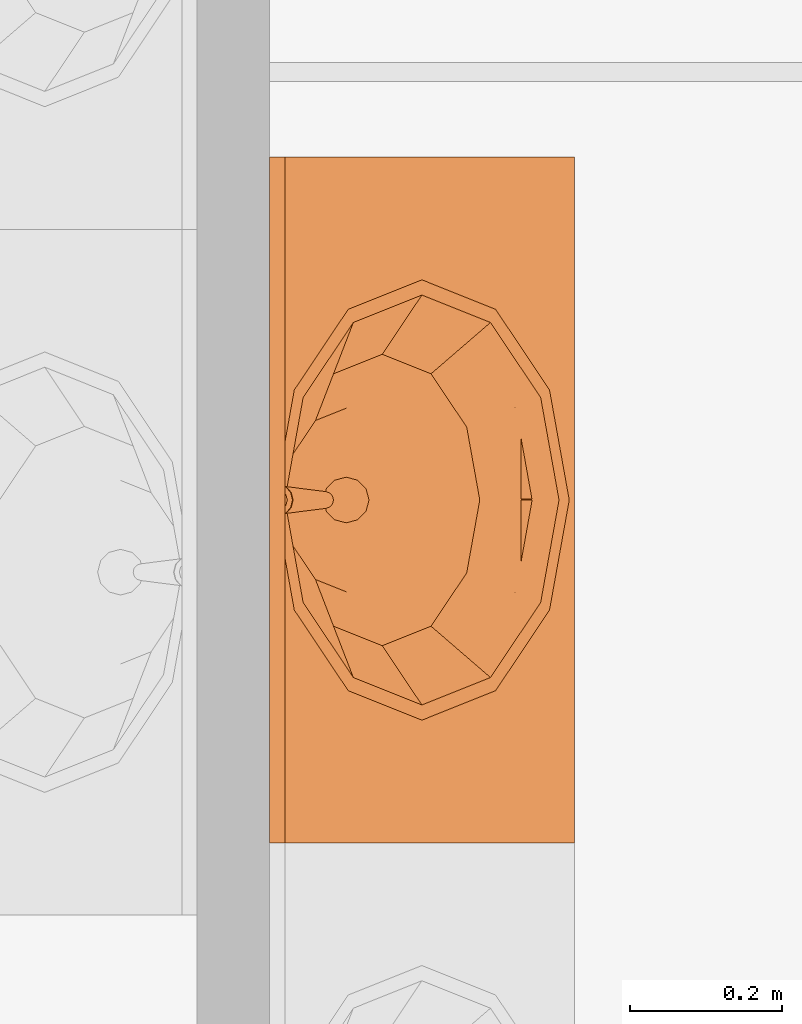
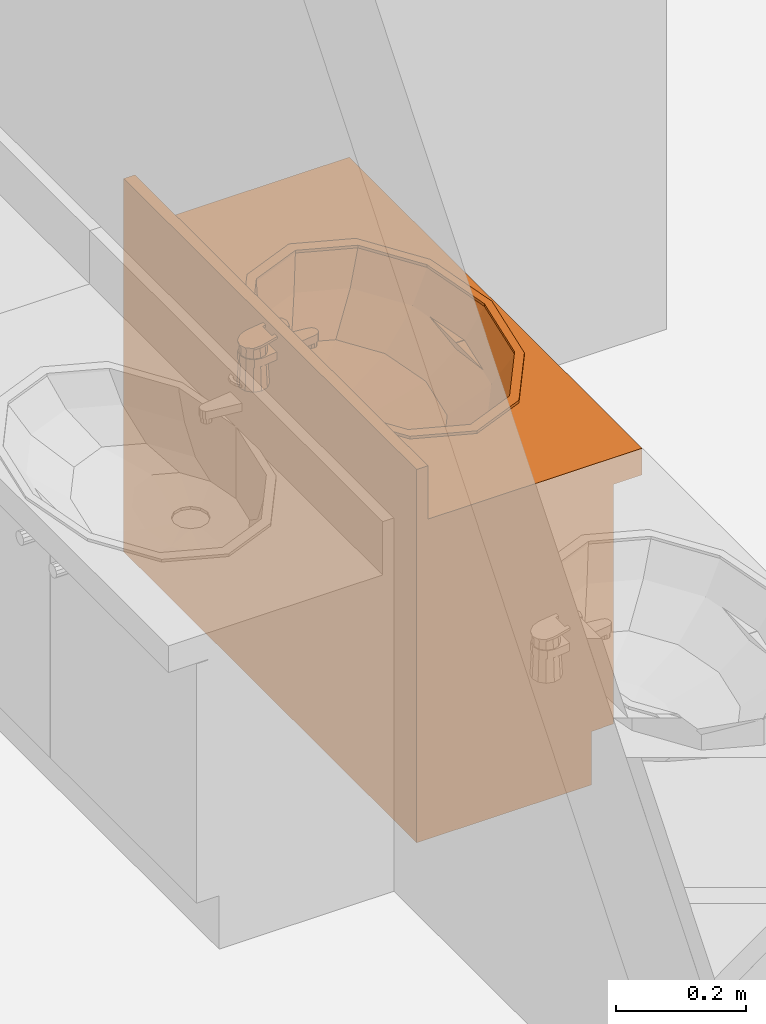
# One storey, part 13 of 14: 1 proxy.
"""IFC2X3 building model written with IfcOpenShell, lengths in millimetres."""

from ifc_helpers import new_model, entity, si_unit, converted_unit, direction, frame, origin_with_axes, place, context, project, spatial, open_shell, faceted_brep, surface_model, material, element, save


model = new_model("IFC2X3")

# Units and contexts
model_context = context("Model", 3, precision=1e-05, world=origin_with_axes(), true_north=direction((0.0, 1.0)))
ifc_project = project(units=[si_unit("LENGTHUNIT", "METRE", prefix="MILLI"), si_unit("AREAUNIT", "SQUARE_METRE"), si_unit("VOLUMEUNIT", "CUBIC_METRE"), converted_unit("PLANEANGLEUNIT", "DEGREE", entity("IfcPlaneAngleMeasure", 0.017453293), si_unit("PLANEANGLEUNIT", "RADIAN"), dimensions=[0, 0, 0, 0, 0, 0, 0]), si_unit("SOLIDANGLEUNIT", "STERADIAN"), si_unit("MASSUNIT", "GRAM"), si_unit("TIMEUNIT", "SECOND"), si_unit("THERMODYNAMICTEMPERATUREUNIT", "DEGREE_CELSIUS"), si_unit("LUMINOUSINTENSITYUNIT", "LUMEN")], contexts=[model_context])

# Site, building, storey
site_placement = place(None, origin_with_axes())
site = spatial("IfcSite", under=ifc_project, at=site_placement, Name="\x83T\x83C\x83g", CompositionType="ELEMENT")
building_placement = place(site_placement, origin_with_axes())
building = spatial("IfcBuilding", under=site, at=building_placement, Name="Daitec-Sample 201208", CompositionType="ELEMENT")
storey_placement = place(building_placement, frame((0.0, 0.0, 8000.0), z_axis=(0.0, 0.0, 1.0), x_axis=(1.0, 0.0, 0.0)))
storey = spatial("IfcBuildingStorey", under=building, at=storey_placement, Name="3F", CompositionType="ELEMENT", Elevation=8000.0)

# Proxy
ifc_material = material(Name="\x94w\x8ci")
proxy_placement = place(storey_placement, frame((21445.071, 22295.126, 0.0), z_axis=(0.0, 0.0, 1.0), x_axis=(0.0, 1.0, 0.0)))
element("IfcBuildingElementProxy", 1, at=proxy_placement, inside=storey, material=ifc_material, Name="O2", context=model_context, shape_type="Brep", body=[
    faceted_brep([(0.0, 90.0, 0.0), (0.0, 90.0, 100.0), (-900.0, 90.0, 100.0), (-900.0, 90.0, 0.0), (0.0, 400.0, 0.0), (0.0, 400.0, 100.0), (-900.0, 400.0, 100.0), (-900.0, 400.0, 0.0)], [[[0, 1, 2, 3]], [[4, 5, 1, 0]], [[1, 5, 6, 2]], [[3, 2, 6, 7]], [[0, 3, 7, 4]], [[7, 6, 5, 4]]]),
    faceted_brep([(0.0, 70.0, 100.0), (0.0, 70.0, 120.0), (-20.0, 70.0, 120.0), (-20.0, 70.0, 100.0), (0.0, 400.0, 100.0), (0.0, 400.0, 120.0), (-20.0, 400.0, 120.0), (-880.0, 400.0, 120.0), (-900.0, 400.0, 120.0), (-900.0, 70.0, 120.0), (-880.0, 70.0, 120.0), (-880.0, 70.0, 100.0), (-900.0, 70.0, 100.0), (-900.0, 400.0, 100.0), (-880.0, 400.0, 100.0), (-20.0, 400.0, 100.0)], [[[0, 1, 2, 3]], [[4, 5, 1, 0]], [[1, 5, 6, 7, 8, 9, 10, 2]], [[3, 2, 10, 11]], [[0, 3, 11, 12, 13, 14, 15, 4]], [[15, 6, 5, 4]], [[14, 7, 6, 15]], [[13, 8, 7, 14]], [[12, 9, 8, 13]], [[11, 10, 9, 12]]]),
    faceted_brep([(0.0, 70.0, 120.0), (0.0, 70.0, 550.0), (-20.0, 70.0, 550.0), (-20.0, 70.0, 120.0), (0.0, 400.0, 120.0), (0.0, 400.0, 550.0), (-900.0, 400.0, 550.0), (-900.0, 70.0, 550.0), (-880.0, 70.0, 550.0), (-880.0, 380.0, 550.0), (-20.0, 380.0, 550.0), (-20.0, 380.0, 120.0), (-880.0, 380.0, 120.0), (-880.0, 70.0, 120.0), (-900.0, 70.0, 120.0), (-900.0, 400.0, 120.0)], [[[0, 1, 2, 3]], [[4, 5, 1, 0]], [[1, 5, 6, 7, 8, 9, 10, 2]], [[3, 2, 10, 11]], [[0, 3, 11, 12, 13, 14, 15, 4]], [[15, 6, 5, 4]], [[14, 7, 6, 15]], [[13, 8, 7, 14]], [[12, 9, 8, 13]], [[11, 10, 9, 12]]]),
    faceted_brep([(-880.0, 70.0, 223.33333), (-880.0, 70.0, 243.33333), (-880.0, 380.0, 243.33333), (-880.0, 380.0, 223.33333), (-20.0, 70.0, 223.33333), (-20.0, 70.0, 243.33333), (-20.0, 380.0, 243.33333), (-20.0, 380.0, 223.33333)], [[[0, 1, 2, 3]], [[4, 5, 1, 0]], [[1, 5, 6, 2]], [[3, 2, 6, 7]], [[0, 3, 7, 4]], [[7, 6, 5, 4]]]),
    faceted_brep([(-880.0, 70.0, 366.66667), (-880.0, 70.0, 386.66667), (-880.0, 380.0, 386.66667), (-880.0, 380.0, 366.66667), (-20.0, 70.0, 366.66667), (-20.0, 70.0, 386.66667), (-20.0, 380.0, 386.66667), (-20.0, 380.0, 366.66667)], [[[0, 1, 2, 3]], [[4, 5, 1, 0]], [[1, 5, 6, 2]], [[3, 2, 6, 7]], [[0, 3, 7, 4]], [[7, 6, 5, 4]]]),
    faceted_brep([(0.0, 400.0, 550.0), (0.0, 0.0, 550.0), (-900.0, 0.0, 550.0), (-900.0, 400.0, 550.0), (-683.82686, 110.0, 550.0), (-585.0, 44.115427, 550.0), (-450.0, 20.0, 550.0), (-315.0, 44.115427, 550.0), (-216.17314, 110.0, 550.0), (-180.0, 200.0, 550.0), (-216.17314, 290.0, 550.0), (-315.0, 355.88457, 550.0), (-450.0, 380.0, 550.0), (-585.0, 355.88457, 550.0), (-683.82686, 290.0, 550.0), (-720.0, 200.0, 550.0), (0.0, 400.0, 600.0), (0.0, 0.0, 600.0), (-900.0, 0.0, 600.0), (-900.0, 400.0, 600.0), (-683.82686, 110.0, 600.0), (-585.0, 44.115427, 600.0), (-450.0, 20.0, 600.0), (-315.0, 44.115427, 600.0), (-216.17314, 110.0, 600.0), (-180.0, 200.0, 600.0), (-216.17314, 290.0, 600.0), (-315.0, 355.88457, 600.0), (-450.0, 380.0, 600.0), (-585.0, 355.88457, 600.0), (-683.82686, 290.0, 600.0), (-720.0, 200.0, 600.0)], [[[0, 1, 2, 3], [4, 5, 6, 7, 8, 9, 10, 11, 12, 13, 14, 15]], [[1, 0, 16, 17]], [[2, 1, 17, 18]], [[3, 2, 18, 19]], [[0, 3, 19, 16]], [[20, 21, 5, 4]], [[21, 22, 6, 5]], [[22, 23, 7, 6]], [[23, 24, 8, 7]], [[24, 25, 9, 8]], [[25, 26, 10, 9]], [[26, 27, 11, 10]], [[27, 28, 12, 11]], [[28, 29, 13, 12]], [[29, 30, 14, 13]], [[30, 31, 15, 14]], [[31, 20, 4, 15]], [[18, 17, 16, 19], [24, 23, 22, 21, 20, 31, 30, 29, 28, 27, 26, 25]]]),
    faceted_brep([(0.0, 380.0, 600.0), (0.0, 380.0, 700.0), (-900.0, 380.0, 700.0), (-900.0, 380.0, 600.0), (0.0, 400.0, 600.0), (0.0, 400.0, 700.0), (-900.0, 400.0, 700.0), (-900.0, 400.0, 600.0)], [[[0, 1, 2, 3]], [[4, 5, 1, 0]], [[1, 5, 6, 2]], [[3, 2, 6, 7]], [[0, 3, 7, 4]], [[7, 6, 5, 4]]]),
    faceted_brep([(-739.0, 200.0, 605.0), (-700.28134, 296.69145, 605.0), (-700.28134, 296.69145, 600.0), (-739.0, 200.0, 600.0), (-700.28134, 103.30855, 605.0), (-594.5, 32.525496, 605.0), (-450.0, 6.6171004, 605.0), (-305.5, 32.525496, 605.0), (-199.71866, 103.30855, 605.0), (-161.0, 200.0, 605.0), (-199.71866, 296.69145, 605.0), (-305.5, 367.4745, 605.0), (-450.0, 393.3829, 605.0), (-594.5, 367.4745, 605.0), (-719.0, 200.0, 605.0), (-682.96083, 290.0, 605.0), (-584.5, 355.88457, 605.0), (-450.0, 380.0, 605.0), (-315.5, 355.88457, 605.0), (-217.03917, 290.0, 605.0), (-181.0, 200.0, 605.0), (-217.03917, 110.0, 605.0), (-315.5, 44.115427, 605.0), (-450.0, 20.0, 605.0), (-584.5, 44.115427, 605.0), (-682.96083, 110.0, 605.0), (-594.5, 367.4745, 600.0), (-450.0, 393.3829, 600.0), (-305.5, 367.4745, 600.0), (-199.71866, 296.69145, 600.0), (-161.0, 200.0, 600.0), (-199.71866, 103.30855, 600.0), (-305.5, 32.525496, 600.0), (-450.0, 6.6171004, 600.0), (-594.5, 32.525496, 600.0), (-700.28134, 103.30855, 600.0), (-719.0, 200.0, 600.0), (-682.96083, 110.0, 600.0), (-584.5, 44.115427, 600.0), (-450.0, 20.0, 600.0), (-315.5, 44.115427, 600.0), (-217.03917, 110.0, 600.0), (-181.0, 200.0, 600.0), (-217.03917, 290.0, 600.0), (-315.5, 355.88457, 600.0), (-450.0, 380.0, 600.0), (-584.5, 355.88457, 600.0), (-682.96083, 290.0, 600.0)], [[[0, 1, 2, 3]], [[0, 4, 5, 6, 7, 8, 9, 10, 11, 12, 13, 1], [14, 15, 16, 17, 18, 19, 20, 21, 22, 23, 24, 25]], [[1, 13, 26, 2]], [[3, 2, 26, 27, 28, 29, 30, 31, 32, 33, 34, 35], [36, 37, 38, 39, 40, 41, 42, 43, 44, 45, 46, 47]], [[4, 0, 3, 35]], [[5, 4, 35, 34]], [[6, 5, 34, 33]], [[7, 6, 33, 32]], [[8, 7, 32, 31]], [[9, 8, 31, 30]], [[10, 9, 30, 29]], [[11, 10, 29, 28]], [[12, 11, 28, 27]], [[13, 12, 27, 26]], [[15, 14, 36, 47]], [[16, 15, 47, 46]], [[17, 16, 46, 45]], [[18, 17, 45, 44]], [[19, 18, 44, 43]], [[20, 19, 43, 42]], [[21, 20, 42, 41]], [[22, 21, 41, 40]], [[23, 22, 40, 39]], [[24, 23, 39, 38]], [[25, 24, 38, 37]], [[14, 25, 37, 36]]]),
    surface_model("IfcShellBasedSurfaceModel", [(-450.0, 380.0, 600.0), (-584.5, 355.88457, 600.0), (-571.05, 358.29612, 548.0), (-450.0, 380.0, 548.0), (-682.96083, 290.0, 600.0), (-659.66475, 299.0, 548.0), (-315.5, 355.88457, 600.0), (-328.95, 358.29612, 548.0), (-719.0, 200.0, 600.0), (-692.1, 218.0, 548.0), (-217.03917, 290.0, 600.0), (-240.33525, 299.0, 548.0), (-682.96083, 110.0, 600.0), (-659.66475, 137.0, 548.0), (-181.0, 200.0, 600.0), (-207.9, 218.0, 548.0), (-584.5, 44.115427, 600.0), (-571.05, 77.703885, 548.0), (-217.03917, 110.0, 600.0), (-240.33525, 137.0, 548.0), (-450.0, 20.0, 600.0), (-450.0, 56.0, 548.0), (-315.5, 44.115427, 600.0), (-328.95, 77.703885, 548.0)], [open_shell([[[0, 1, 2, 3]], [[1, 4, 5, 2]], [[6, 0, 3, 7]], [[4, 8, 9, 5]], [[10, 6, 7, 11]], [[8, 12, 13, 9]], [[14, 10, 11, 15]], [[12, 16, 17, 13]], [[18, 14, 15, 19]], [[16, 20, 21, 17]], [[22, 18, 19, 23]], [[20, 22, 23, 21]]])]),
    surface_model("IfcShellBasedSurfaceModel", [(-450.0, 380.0, 548.0), (-571.05, 358.29612, 548.0), (-545.6295, 362.85393, 496.0), (-450.0, 380.0, 496.0), (-659.66475, 299.0, 548.0), (-615.63515, 316.01, 496.0), (-328.95, 358.29612, 548.0), (-354.3705, 362.85393, 496.0), (-692.1, 218.0, 548.0), (-641.259, 252.02, 496.0), (-240.33525, 299.0, 548.0), (-284.36485, 316.01, 496.0), (-659.66475, 137.0, 548.0), (-615.63515, 188.03, 496.0), (-207.9, 218.0, 548.0), (-258.741, 252.02, 496.0), (-571.05, 77.703885, 548.0), (-545.6295, 141.18607, 496.0), (-240.33525, 137.0, 548.0), (-284.36485, 188.03, 496.0), (-450.0, 56.0, 548.0), (-450.0, 124.04, 496.0), (-328.95, 77.703885, 548.0), (-354.3705, 141.18607, 496.0)], [open_shell([[[0, 1, 2, 3]], [[1, 4, 5, 2]], [[6, 0, 3, 7]], [[4, 8, 9, 5]], [[10, 6, 7, 11]], [[8, 12, 13, 9]], [[14, 10, 11, 15]], [[12, 16, 17, 13]], [[18, 14, 15, 19]], [[16, 20, 21, 17]], [[22, 18, 19, 23]], [[20, 22, 23, 21]]])]),
    surface_model("IfcShellBasedSurfaceModel", [(-450.0, 380.0, 496.0), (-545.6295, 362.85393, 496.0), (-510.24659, 369.19798, 470.0), (-450.0, 380.0, 470.0), (-615.63515, 316.01, 496.0), (-554.35015, 339.6863, 470.0), (-354.3705, 362.85393, 496.0), (-389.75341, 369.19798, 470.0), (-641.259, 252.02, 496.0), (-570.49317, 299.3726, 470.0), (-284.36485, 316.01, 496.0), (-345.64985, 339.6863, 470.0), (-615.63515, 188.03, 496.0), (-554.35015, 259.0589, 470.0), (-258.741, 252.02, 496.0), (-329.50683, 299.3726, 470.0), (-545.6295, 141.18607, 496.0), (-510.24659, 229.54722, 470.0), (-284.36485, 188.03, 496.0), (-345.64985, 259.0589, 470.0), (-450.0, 124.04, 496.0), (-450.0, 218.7452, 470.0), (-354.3705, 141.18607, 496.0), (-389.75341, 229.54722, 470.0)], [open_shell([[[0, 1, 2, 3]], [[1, 4, 5, 2]], [[6, 0, 3, 7]], [[4, 8, 9, 5]], [[10, 6, 7, 11]], [[8, 12, 13, 9]], [[14, 10, 11, 15]], [[12, 16, 17, 13]], [[18, 14, 15, 19]], [[16, 20, 21, 17]], [[22, 18, 19, 23]], [[20, 22, 23, 21]]])]),
    surface_model("IfcShellBasedSurfaceModel", [(-450.0, 380.0, 470.0), (-510.24659, 369.19798, 470.0), (-465.0, 325.35336, 463.0), (-475.98076, 314.3726, 463.0), (-450.0, 329.3726, 463.0), (-554.35015, 339.6863, 470.0), (-389.75341, 369.19798, 470.0), (-480.0, 299.3726, 463.0), (-435.0, 325.35336, 463.0), (-570.49317, 299.3726, 470.0), (-345.64985, 339.6863, 470.0), (-475.98076, 284.3726, 463.0), (-424.01924, 314.3726, 463.0), (-554.35015, 259.0589, 470.0), (-329.50683, 299.3726, 470.0), (-465.0, 273.39184, 463.0), (-420.0, 299.3726, 463.0), (-510.24659, 229.54722, 470.0), (-345.64985, 259.0589, 470.0), (-450.0, 269.3726, 463.0), (-424.01924, 284.3726, 463.0), (-450.0, 218.7452, 470.0), (-389.75341, 229.54722, 470.0), (-435.0, 273.39184, 463.0)], [open_shell([[[0, 1, 2]], [[1, 3, 2]], [[0, 2, 4]], [[1, 5, 3]], [[6, 0, 4]], [[5, 7, 3]], [[6, 4, 8]], [[5, 9, 7]], [[10, 6, 8]], [[9, 11, 7]], [[10, 8, 12]], [[9, 13, 11]], [[14, 10, 12]], [[13, 15, 11]], [[14, 12, 16]], [[13, 17, 15]], [[18, 14, 16]], [[17, 19, 15]], [[18, 16, 20]], [[17, 21, 19]], [[22, 18, 20]], [[21, 23, 19]], [[22, 20, 23]], [[21, 22, 23]]])]),
    surface_model("IfcShellBasedSurfaceModel", [(-480.0, 299.3726, 463.0), (-475.98076, 314.3726, 463.0), (-475.98076, 314.3726, 458.0), (-480.0, 299.3726, 458.0), (-465.0, 325.35336, 463.0), (-465.0, 325.35336, 458.0), (-450.0, 329.3726, 458.0), (-435.0, 325.35336, 458.0), (-424.01924, 314.3726, 458.0), (-420.0, 299.3726, 458.0), (-424.01924, 284.3726, 458.0), (-435.0, 273.39184, 458.0), (-450.0, 269.3726, 458.0), (-465.0, 273.39184, 458.0), (-475.98076, 284.3726, 458.0), (-475.98076, 284.3726, 463.0), (-450.0, 329.3726, 463.0), (-435.0, 325.35336, 463.0), (-424.01924, 314.3726, 463.0), (-420.0, 299.3726, 463.0), (-424.01924, 284.3726, 463.0), (-435.0, 273.39184, 463.0), (-450.0, 269.3726, 463.0), (-465.0, 273.39184, 463.0)], [open_shell([[[0, 1, 2, 3]], [[1, 4, 5, 2]], [[3, 2, 5, 6, 7, 8, 9, 10, 11, 12, 13, 14]], [[15, 0, 3, 14]], [[4, 16, 6, 5]], [[16, 17, 7, 6]], [[17, 18, 8, 7]], [[18, 19, 9, 8]], [[19, 20, 10, 9]], [[20, 21, 11, 10]], [[21, 22, 12, 11]], [[22, 23, 13, 12]], [[23, 15, 14, 13]]])]),
    faceted_brep([(-462.5, 451.65064, 600.0), (-460.58732, 448.33778, 676.50709), (-450.0, 451.20192, 675.96154), (-450.0, 455.0, 600.0), (-471.65064, 442.5, 600.0), (-468.27355, 440.55024, 677.99043), (-471.0, 430.0, 680.0), (-468.10034, 419.54976, 681.99052), (-460.41411, 411.96224, 683.43576), (-450.0, 409.19811, 683.96226), (-439.58589, 411.96224, 683.43576), (-431.89966, 419.54976, 681.99052), (-429.0, 430.0, 680.0), (-431.72645, 440.55024, 677.99043), (-439.41268, 448.33778, 676.50709), (-437.5, 451.65064, 600.0), (-428.34936, 442.5, 600.0), (-425.0, 430.0, 600.0), (-428.34936, 417.5, 600.0), (-437.5, 408.34936, 600.0), (-450.0, 405.0, 600.0), (-462.5, 408.34936, 600.0), (-471.65064, 417.5, 600.0), (-475.0, 430.0, 600.0)], [[[0, 1, 2, 3]], [[4, 5, 1, 0]], [[1, 5, 6, 7, 8, 9, 10, 11, 12, 13, 14, 2]], [[3, 2, 14, 15]], [[0, 3, 15, 16, 17, 18, 19, 20, 21, 22, 23, 4]], [[23, 6, 5, 4]], [[22, 7, 6, 23]], [[21, 8, 7, 22]], [[20, 9, 8, 21]], [[19, 10, 9, 20]], [[18, 11, 10, 19]], [[17, 12, 11, 18]], [[16, 13, 12, 17]], [[15, 14, 13, 16]]]),
    faceted_brep([(-459.0, 327.0, 635.0), (-459.0, 327.0, 645.0), (-457.79423, 331.5, 645.0), (-457.79423, 331.5, 635.0), (-457.79423, 322.5, 635.0), (-457.79423, 322.5, 645.0), (-454.5, 319.20577, 645.0), (-450.0, 318.0, 645.0), (-445.5, 319.20577, 645.0), (-442.20577, 322.5, 645.0), (-441.0, 327.0, 645.0), (-442.20577, 331.5, 645.0), (-445.5, 334.79423, 645.0), (-450.0, 336.0, 645.0), (-454.5, 334.79423, 645.0), (-454.5, 334.79423, 635.0), (-450.0, 336.0, 635.0), (-445.5, 334.79423, 635.0), (-442.20577, 331.5, 635.0), (-441.0, 327.0, 635.0), (-442.20577, 322.5, 635.0), (-445.5, 319.20577, 635.0), (-450.0, 318.0, 635.0), (-454.5, 319.20577, 635.0)], [[[0, 1, 2, 3]], [[4, 5, 1, 0]], [[1, 5, 6, 7, 8, 9, 10, 11, 12, 13, 14, 2]], [[3, 2, 14, 15]], [[0, 3, 15, 16, 17, 18, 19, 20, 21, 22, 23, 4]], [[23, 6, 5, 4]], [[22, 7, 6, 23]], [[21, 8, 7, 22]], [[20, 9, 8, 21]], [[19, 10, 9, 20]], [[18, 11, 10, 19]], [[17, 12, 11, 18]], [[16, 13, 12, 17]], [[15, 14, 13, 16]]]),
    faceted_brep([(-440.97112, 320.71681, 660.0), (-439.08801, 325.61163, 660.0), (-426.1946, 426.9501, 660.0), (-428.27219, 440.19321, 660.0), (-437.12828, 450.2563, 660.0), (-450.0, 453.99998, 660.0), (-462.87172, 450.2563, 660.0), (-471.72781, 440.1932, 660.0), (-473.8054, 426.9501, 660.0), (-460.912, 325.6117, 660.0), (-459.02892, 320.71687, 660.0), (-455.09339, 317.25031, 660.0), (-450.00004, 316.00004, 660.0), (-444.90668, 317.25027, 660.0), (-430.94744, 419.0, 660.0), (-439.0, 410.94744, 660.0), (-450.0, 408.0, 660.0), (-461.0, 410.94744, 660.0), (-469.05256, 419.0, 660.0), (-472.0, 430.0, 660.0), (-469.05256, 441.0, 660.0), (-461.0, 449.05256, 660.0), (-450.0, 452.0, 660.0), (-439.0, 449.05256, 660.0), (-430.94744, 441.0, 660.0), (-428.0, 430.0, 660.0), (-440.97112, 320.71681, 645.0), (-439.08801, 325.61163, 645.0), (-426.1946, 426.9501, 645.0), (-428.27219, 440.19321, 645.0), (-437.12828, 450.2563, 645.0), (-450.0, 453.99998, 645.0), (-462.87172, 450.2563, 645.0), (-471.72781, 440.1932, 645.0), (-473.8054, 426.9501, 645.0), (-460.912, 325.6117, 645.0), (-459.02892, 320.71687, 645.0), (-455.09339, 317.25031, 645.0), (-450.00004, 316.00004, 645.0), (-444.90668, 317.25027, 645.0), (-430.29792, 418.625, 645.0), (-438.625, 410.29792, 645.0), (-450.0, 407.25, 645.0), (-461.375, 410.29792, 645.0), (-469.70208, 418.625, 645.0), (-472.75, 430.0, 645.0), (-469.70208, 441.375, 645.0), (-461.375, 449.70208, 645.0), (-450.0, 452.75, 645.0), (-438.625, 449.70208, 645.0), (-430.29792, 441.375, 645.0), (-427.25, 430.0, 645.0)], [[[0, 1, 2, 3, 4, 5, 6, 7, 8, 9, 10, 11, 12, 13], [14, 15, 16, 17, 18, 19, 20, 21, 22, 23, 24, 25]], [[26, 27, 1, 0]], [[27, 28, 2, 1]], [[28, 29, 3, 2]], [[29, 30, 4, 3]], [[30, 31, 5, 4]], [[31, 32, 6, 5]], [[32, 33, 7, 6]], [[33, 34, 8, 7]], [[34, 35, 9, 8]], [[35, 36, 10, 9]], [[36, 37, 11, 10]], [[37, 38, 12, 11]], [[38, 39, 13, 12]], [[39, 26, 0, 13]], [[40, 41, 15, 14]], [[41, 42, 16, 15]], [[42, 43, 17, 16]], [[43, 44, 18, 17]], [[44, 45, 19, 18]], [[20, 19, 45, 46]], [[21, 20, 46, 47]], [[22, 21, 47, 48]], [[23, 22, 48, 49]], [[24, 23, 49, 50]], [[50, 51, 25, 24]], [[51, 40, 14, 25]], [[28, 27, 26, 39, 38, 37, 36, 35, 34, 33, 32, 31, 30, 29], [44, 43, 42, 41, 40, 51, 50, 49, 48, 47, 46, 45]]]),
    faceted_brep([(-473.893, 428.30743, 680.32239), (-473.893, 429.05588, 684.25175), (-471.29642, 441.52317, 681.87703), (-471.29642, 440.77472, 677.94767), (-470.94594, 388.1633, 687.9689), (-470.94594, 388.91175, 691.89825), (-467.66314, 379.23408, 693.74161), (-460.06144, 372.2847, 695.06531), (-449.99956, 369.76284, 695.54566), (-439.93779, 372.28512, 695.06523), (-432.33638, 379.23481, 693.74148), (-429.054, 388.91261, 691.89808), (-426.10698, 429.05616, 684.2517), (-428.70371, 441.52342, 681.87698), (-437.52832, 450.83965, 680.10246), (-450.00014, 454.28041, 679.44708), (-462.47192, 450.8395, 680.10249), (-464.0, 405.20765, 688.79427), (-436.0, 405.20765, 688.79427), (-436.0, 390.39202, 691.61629), (-437.87564, 383.51565, 692.92608), (-443.0, 378.48179, 693.88491), (-450.0, 376.63928, 694.23586), (-457.0, 378.48179, 693.88491), (-462.12436, 383.51565, 692.92608), (-464.0, 390.39202, 691.61629), (-462.47192, 450.09105, 676.17313), (-450.00014, 453.53196, 675.51772), (-437.52832, 450.0912, 676.17311), (-428.70371, 440.77497, 677.94763), (-426.10698, 428.30771, 680.32234), (-429.054, 388.16417, 687.96873), (-432.33638, 378.48636, 689.81212), (-439.93779, 371.53667, 691.13587), (-449.99956, 369.01439, 691.61631), (-460.06144, 371.53625, 691.13595), (-467.66314, 378.48563, 689.81226), (-464.0, 404.4592, 684.86491), (-464.0, 389.64357, 687.68694), (-462.12436, 382.7672, 688.99672), (-457.0, 377.73334, 689.95555), (-450.0, 375.89083, 690.30651), (-443.0, 377.73334, 689.95555), (-437.87564, 382.7672, 688.99672), (-436.0, 389.64357, 687.68694), (-436.0, 404.4592, 684.86491)], [[[0, 1, 2, 3]], [[4, 5, 1, 0]], [[1, 5, 6, 7, 8, 9, 10, 11, 12, 13, 14, 15, 16, 2], [17, 18, 19, 20, 21, 22, 23, 24, 25]], [[3, 2, 16, 26]], [[0, 3, 26, 27, 28, 29, 30, 31, 32, 33, 34, 35, 36, 4], [37, 38, 39, 40, 41, 42, 43, 44, 45]], [[36, 6, 5, 4]], [[35, 7, 6, 36]], [[34, 8, 7, 35]], [[33, 9, 8, 34]], [[32, 10, 9, 33]], [[31, 11, 10, 32]], [[30, 12, 11, 31]], [[29, 13, 12, 30]], [[28, 14, 13, 29]], [[27, 15, 14, 28]], [[26, 16, 15, 27]], [[45, 18, 17, 37]], [[44, 19, 18, 45]], [[43, 20, 19, 44]], [[42, 21, 20, 43]], [[41, 22, 21, 42]], [[40, 23, 22, 41]], [[39, 24, 23, 40]], [[38, 25, 24, 39]], [[37, 17, 25, 38]]]),
    faceted_brep([(0.0, 70.0, 100.0), (0.0, 50.0, 100.0), (-449.0, 50.0, 100.0), (-449.0, 70.0, 100.0), (0.0, 70.0, 549.0), (0.0, 50.0, 549.0), (-449.0, 50.0, 549.0), (-449.0, 70.0, 549.0)], [[[0, 1, 2, 3]], [[4, 5, 1, 0]], [[1, 5, 6, 2]], [[3, 2, 6, 7]], [[0, 3, 7, 4]], [[7, 6, 5, 4]]]),
    faceted_brep([(-409.3923, 50.0, 484.0), (-411.0, 50.0, 490.0), (-409.3923, 50.0, 496.0), (-405.0, 50.0, 500.3923), (-399.0, 50.0, 502.0), (-393.0, 50.0, 500.3923), (-388.6077, 50.0, 496.0), (-387.0, 50.0, 490.0), (-388.6077, 50.0, 484.0), (-393.0, 50.0, 479.6077), (-399.0, 50.0, 478.0), (-405.0, 50.0, 479.6077), (-409.3923, 25.0, 484.0), (-411.0, 25.0, 490.0), (-409.3923, 25.0, 496.0), (-405.0, 25.0, 500.3923), (-399.0, 25.0, 502.0), (-393.0, 25.0, 500.3923), (-388.6077, 25.0, 496.0), (-387.0, 25.0, 490.0), (-388.6077, 25.0, 484.0), (-393.0, 25.0, 479.6077), (-399.0, 25.0, 478.0), (-405.0, 25.0, 479.6077)], [[[0, 1, 2, 3, 4, 5, 6, 7, 8, 9, 10, 11]], [[0, 12, 13, 1]], [[1, 13, 14, 2]], [[2, 14, 15, 3]], [[3, 15, 16, 4]], [[4, 16, 17, 5]], [[5, 17, 18, 6]], [[6, 18, 19, 7]], [[7, 19, 20, 8]], [[8, 20, 21, 9]], [[9, 21, 22, 10]], [[10, 22, 23, 11]], [[11, 23, 12, 0]], [[12, 23, 22, 21, 20, 19, 18, 17, 16, 15, 14, 13]]]),
    faceted_brep([(-899.0, 70.0, 100.0), (-450.0, 70.0, 100.0), (-450.0, 50.0, 100.0), (-899.0, 50.0, 100.0), (-899.0, 70.0, 549.0), (-450.0, 70.0, 549.0), (-450.0, 50.0, 549.0), (-899.0, 50.0, 549.0)], [[[0, 1, 2, 3]], [[0, 4, 5, 1]], [[1, 5, 6, 2]], [[3, 2, 6, 7]], [[4, 0, 3, 7]], [[5, 4, 7, 6]]]),
    faceted_brep([(-489.6077, 50.0, 484.0), (-494.0, 50.0, 479.6077), (-500.0, 50.0, 478.0), (-506.0, 50.0, 479.6077), (-510.3923, 50.0, 484.0), (-512.0, 50.0, 490.0), (-510.3923, 50.0, 496.0), (-506.0, 50.0, 500.3923), (-500.0, 50.0, 502.0), (-494.0, 50.0, 500.3923), (-489.6077, 50.0, 496.0), (-488.0, 50.0, 490.0), (-489.6077, 25.0, 484.0), (-494.0, 25.0, 479.6077), (-500.0, 25.0, 478.0), (-506.0, 25.0, 479.6077), (-510.3923, 25.0, 484.0), (-512.0, 25.0, 490.0), (-510.3923, 25.0, 496.0), (-506.0, 25.0, 500.3923), (-500.0, 25.0, 502.0), (-494.0, 25.0, 500.3923), (-489.6077, 25.0, 496.0), (-488.0, 25.0, 490.0)], [[[0, 1, 2, 3, 4, 5, 6, 7, 8, 9, 10, 11]], [[1, 0, 12, 13]], [[2, 1, 13, 14]], [[3, 2, 14, 15]], [[4, 3, 15, 16]], [[5, 4, 16, 17]], [[6, 5, 17, 18]], [[7, 6, 18, 19]], [[8, 7, 19, 20]], [[9, 8, 20, 21]], [[10, 9, 21, 22]], [[11, 10, 22, 23]], [[0, 11, 23, 12]], [[12, 23, 22, 21, 20, 19, 18, 17, 16, 15, 14, 13]]]),
])

save(model, "model.ifc")
